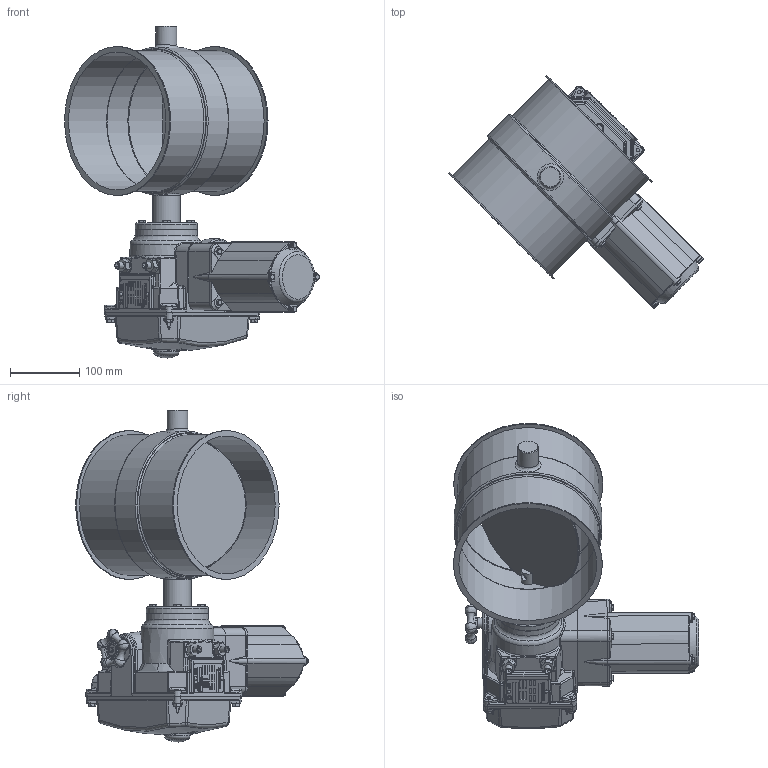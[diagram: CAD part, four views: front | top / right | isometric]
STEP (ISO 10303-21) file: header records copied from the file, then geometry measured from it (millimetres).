
FILE_DESCRIPTION((''),'2;1');
FILE_NAME('U:\Wolfgang\Marcel-3D\fertig\Kapitel 8\2021216.stp','2012-01-13T11:08:04',('iwienholt'),(''),'Autodesk Inventor 2010','Autodesk Inventor 2010','');
FILE_SCHEMA(('AUTOMOTIVE_DESIGN { 1 0 10303 214 1 1 1 1 }'));
Length unit declared in the file: millimetre
Products named in the file (8): 2021216; Bolzen D20; Scheibe200b; 2021210-1; D20 Antrieb LE-10; DIN EN ISO 4018 M6x25; LEB100cc; BuchseD20 90-50
Assembly tree (11 placements, depth 3):
  2021216
    Bolzen D20  x2
    Scheibe200b
    2021210-1
    D20 Antrieb LE-10
      DIN EN ISO 4018 M6x25  x4
      LEB100cc
      BuchseD20 90-50
Bounding box: 367.58 x 335.65 x 478.82 mm (x, y, z)
Volume: 5022997.7 mm3; surface area: 680681.2 mm2
Topology: 10 solids, 10 shells, 1489 faces, 3758 edges, 2362 vertices
Faces by surface type: plane 746, cylinder 290, bspline 239, torus 86, cone 83, sphere 45
Full cylindrical faces by diameter (mm): 5 x4, 5.1 x8, 6 x12, 6.9 x8, 10 x4, 15 x1, 16 x1, 17 x1, 18.6 x2, 20 x6, 20.5 x1, 30 x2, 35 x1, 40 x2, 42 x1, 90 x1, 199 x3, 200 x1, 203 x2, 208 x1, 209 x1, 213 x1, 215 x2
Entity records: 52330 total; most frequent: CARTESIAN_POINT 19686, ORIENTED_EDGE 6736, DIRECTION 5878, EDGE_CURVE 3368, VERTEX_POINT 2223, AXIS2_PLACEMENT_3D 2064, VECTOR 1750, LINE 1750
